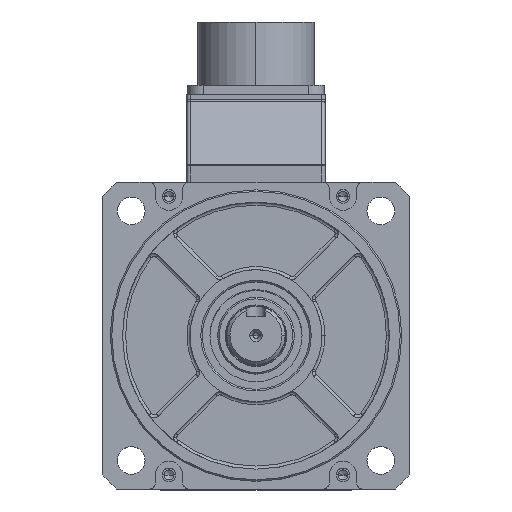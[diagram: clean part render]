
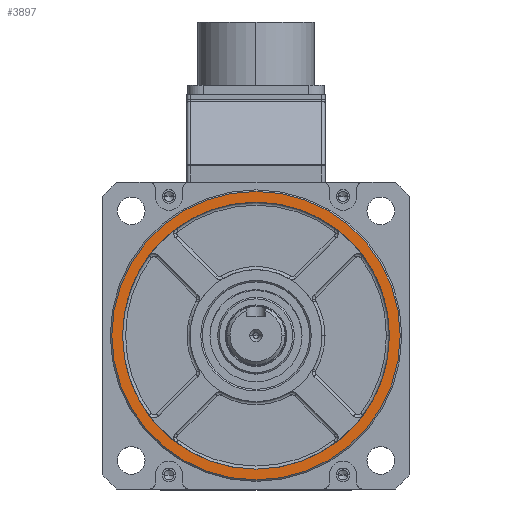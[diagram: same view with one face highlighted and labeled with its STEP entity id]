
A CAD part, top view. The second image highlights one B-rep face of the part: STEP entity #3897.
In plain terms, the highlighted planar face has unit normal (0, 0, 1).
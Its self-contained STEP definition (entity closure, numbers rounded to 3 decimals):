
#580 = EDGE_LOOP ( 'NONE', ( #28942, #45161 ) ) ;
#784 = VERTEX_POINT ( 'NONE', #38885 ) ;
#1166 = CARTESIAN_POINT ( 'NONE',  ( -43.5, 0., 13. ) ) ;
#1619 = CIRCLE ( 'NONE', #6293, 43.5 ) ;
#3897 = ADVANCED_FACE ( 'NONE', ( #40856, #45232 ), #48455, .T. ) ;
#6293 = AXIS2_PLACEMENT_3D ( 'NONE', #51683, #33261, #11035 ) ;
#9633 = EDGE_CURVE ( 'NONE', #784, #19903, #10649, .T. ) ;
#10649 = CIRCLE ( 'NONE', #50819, 47. ) ;
#11035 = DIRECTION ( 'NONE',  ( 1., 0., 0. ) ) ;
#13177 = DIRECTION ( 'NONE',  ( 0., 0., 1. ) ) ;
#14083 = AXIS2_PLACEMENT_3D ( 'NONE', #21823, #39689, #50755 ) ;
#18011 = CARTESIAN_POINT ( 'NONE',  ( 43.5, 0., 13. ) ) ;
#19903 = VERTEX_POINT ( 'NONE', #31579 ) ;
#21823 = CARTESIAN_POINT ( 'NONE',  ( 0., 0., 13. ) ) ;
#28602 = DIRECTION ( 'NONE',  ( 1., 0., 0. ) ) ;
#28942 = ORIENTED_EDGE ( 'NONE', *, *, #9633, .T. ) ;
#29736 = EDGE_CURVE ( 'NONE', #19903, #784, #37796, .T. ) ;
#31285 = DIRECTION ( 'NONE',  ( 1., 0., 0. ) ) ;
#31579 = CARTESIAN_POINT ( 'NONE',  ( 47., 0., 13. ) ) ;
#33261 = DIRECTION ( 'NONE',  ( 0., 0., 1. ) ) ;
#34888 = EDGE_LOOP ( 'NONE', ( #47386, #57399 ) ) ;
#35374 = CARTESIAN_POINT ( 'NONE',  ( 0., 0., 13. ) ) ;
#35786 = EDGE_CURVE ( 'NONE', #35834, #40676, #45915, .T. ) ;
#35834 = VERTEX_POINT ( 'NONE', #1166 ) ;
#37796 = CIRCLE ( 'NONE', #52762, 47. ) ;
#38885 = CARTESIAN_POINT ( 'NONE',  ( -47., 0., 13. ) ) ;
#38933 = DIRECTION ( 'NONE',  ( 1., 0., 0. ) ) ;
#39689 = DIRECTION ( 'NONE',  ( 0., 0., 1. ) ) ;
#40676 = VERTEX_POINT ( 'NONE', #18011 ) ;
#40856 = FACE_OUTER_BOUND ( 'NONE', #580, .T. ) ;
#41578 = EDGE_CURVE ( 'NONE', #40676, #35834, #1619, .T. ) ;
#45161 = ORIENTED_EDGE ( 'NONE', *, *, #29736, .T. ) ;
#45232 = FACE_BOUND ( 'NONE', #34888, .T. ) ;
#45915 = CIRCLE ( 'NONE', #50594, 43.5 ) ;
#46182 = CARTESIAN_POINT ( 'NONE',  ( 0., 0., 13. ) ) ;
#47030 = DIRECTION ( 'NONE',  ( 0., 0., 1. ) ) ;
#47386 = ORIENTED_EDGE ( 'NONE', *, *, #41578, .F. ) ;
#48455 = PLANE ( 'NONE',  #14083 ) ;
#49711 = DIRECTION ( 'NONE',  ( 0., 0., 1. ) ) ;
#50594 = AXIS2_PLACEMENT_3D ( 'NONE', #57334, #13177, #38933 ) ;
#50755 = DIRECTION ( 'NONE',  ( 1., 0., 0. ) ) ;
#50819 = AXIS2_PLACEMENT_3D ( 'NONE', #35374, #49711, #31285 ) ;
#51683 = CARTESIAN_POINT ( 'NONE',  ( 0., 0., 13. ) ) ;
#52762 = AXIS2_PLACEMENT_3D ( 'NONE', #46182, #47030, #28602 ) ;
#57334 = CARTESIAN_POINT ( 'NONE',  ( 0., 0., 13. ) ) ;
#57399 = ORIENTED_EDGE ( 'NONE', *, *, #35786, .F. ) ;
